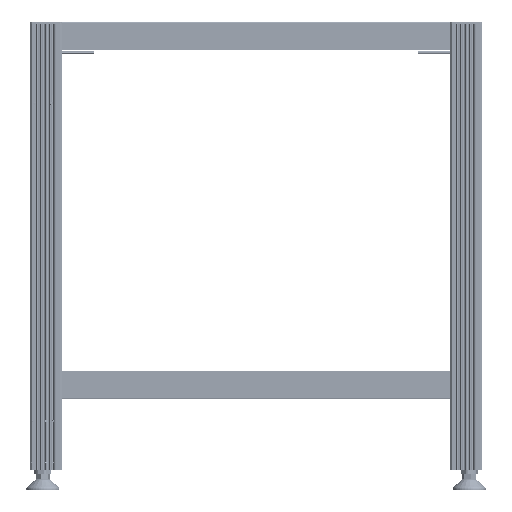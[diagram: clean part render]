
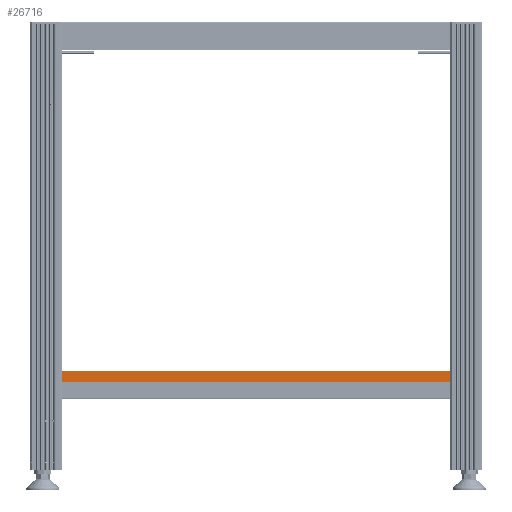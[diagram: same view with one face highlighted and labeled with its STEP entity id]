
A CAD part, front view. The second image highlights one B-rep face of the part: STEP entity #26716.
In plain terms, the highlighted planar face has unit normal (0, -1, 0) as drawn and (-1, 0, 0) by its records, which use the part's own axes.
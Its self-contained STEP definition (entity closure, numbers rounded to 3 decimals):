
#918=PLANE('',#29658);
#2122=LINE('',#41257,#4352);
#2129=LINE('',#41312,#4359);
#2173=LINE('',#41452,#4403);
#2174=LINE('',#41454,#4404);
#4352=VECTOR('',#32907,1000.);
#4359=VECTOR('',#32938,1000.);
#4403=VECTOR('',#33020,1000.);
#4404=VECTOR('',#33021,1000.);
#6951=ORIENTED_EDGE('',*,*,#14754,.T.);
#6952=ORIENTED_EDGE('',*,*,#14681,.T.);
#6953=ORIENTED_EDGE('',*,*,#14696,.T.);
#6954=ORIENTED_EDGE('',*,*,#14755,.F.);
#14681=EDGE_CURVE('',#18634,#18637,#2122,.T.);
#14696=EDGE_CURVE('',#18637,#18652,#2129,.T.);
#14754=EDGE_CURVE('',#18706,#18634,#2173,.T.);
#14755=EDGE_CURVE('',#18706,#18652,#2174,.T.);
#18634=VERTEX_POINT('',#41251);
#18637=VERTEX_POINT('',#41256);
#18652=VERTEX_POINT('',#41313);
#18706=VERTEX_POINT('',#41453);
#22545=EDGE_LOOP('',(#6951,#6952,#6953,#6954));
#24332=FACE_BOUND('',#22545,.T.);
#26716=ADVANCED_FACE('',(#24332),#918,.T.);
#29658=AXIS2_PLACEMENT_3D('',#41451,#33018,#33019);
#32907=DIRECTION('',(0.,0.,1.));
#32938=DIRECTION('',(0.,1.,0.));
#33018=DIRECTION('',(-1.,0.,0.));
#33019=DIRECTION('',(0.,0.,1.));
#33020=DIRECTION('',(0.,-1.,0.));
#33021=DIRECTION('',(0.,0.,1.));
#41251=CARTESIAN_POINT('',(0.,1.,0.));
#41256=CARTESIAN_POINT('',(0.,1.,550.));
#41257=CARTESIAN_POINT('',(0.,1.,-1.));
#41312=CARTESIAN_POINT('',(0.,0.,550.));
#41313=CARTESIAN_POINT('',(0.,16.,550.));
#41451=CARTESIAN_POINT('',(0.,0.,-1.));
#41452=CARTESIAN_POINT('',(0.,20.,0.));
#41453=CARTESIAN_POINT('',(0.,16.,0.));
#41454=CARTESIAN_POINT('',(0.,16.,-1.));
